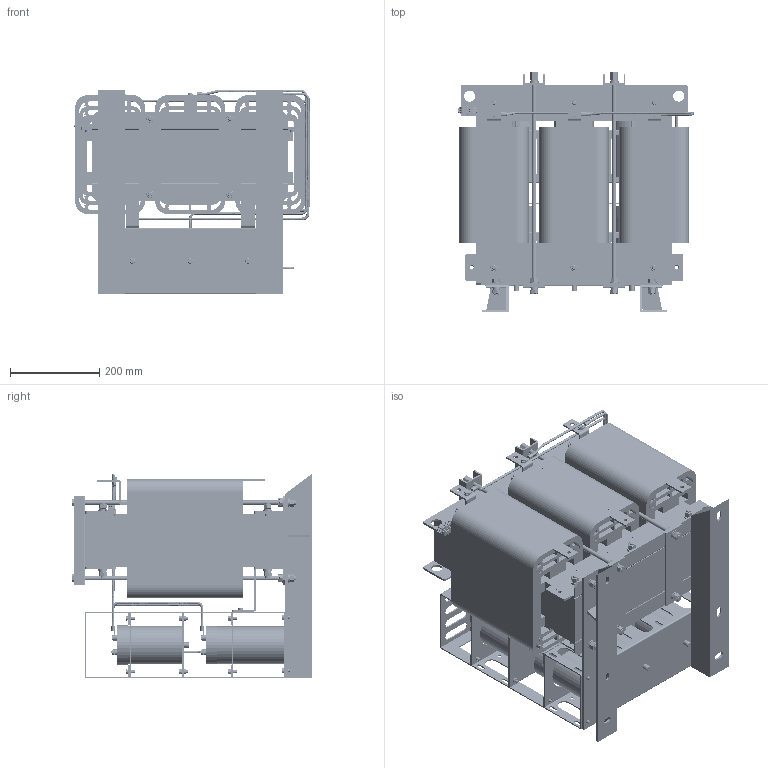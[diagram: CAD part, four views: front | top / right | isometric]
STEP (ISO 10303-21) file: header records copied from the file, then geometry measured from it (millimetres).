
FILE_DESCRIPTION(('STEP AP203'), '1');
FILE_NAME('蔓躅漤铋 耔眢耥 翳朦蝠 _ ISINOF-185_240-6', '', ('UNSPECIFIED'), ('UNSPECIFIED'), 'C3D Converter', 'C3D Toolkit', '');
FILE_SCHEMA(('CONFIG_CONTROL_DESIGN'));
Length unit declared in the file: millimetre
Products named in the file (53): ISINOF-185/240-6; UРНС№Мх 50x25x4; 愧X2\0437\X0\琵X2\0410\X0\ іЕМх; №么X2\04270426041C0445\X0\12x10x260; ї琵X2\041E\X0\做зЧУKV223-2P; А降еМх80-450-2; А降еМх琵X2\0436\X0\豹X2\0435\X0\80-98-2; ЖЅ豹X2\043504560415\X0\豹X2\0435\X0\12x25x260; ЖЅ豹X2\043504560415\X0\豹X2\0435\X0\20x50x260; ИэПаМъРѕ440-450-136; ПЯИ¦286A; ПВјРјю-490ЎБ80ЎБ40; ПВјРјю-490ЎБ80ЎБ40 јУЅУ琵X2\042804570427\X0\; 琵X2\04270405041504230422\X0\; 琵X2\04270405041504270443\X0\; 琵X2\04370418042D0426\X0\吭X2\04560415\X0\; ёЗЧУ; ЙПјРјю-560ЎБ80ЎБ6; ПЯИ朴жїй; С№豹X2\0435\X0\; ДЪДёЕЕ40x4; НвДёЕЕ40x4; 琵X2\04370418042D0458042C\X0\2; 吒X2\0425\X0\84-175; plain washers--product grade c gb_GB_FASTENER_WASHER_SMWC 10; spring lock washers--normal type gb_GB_FASTENER_WASHER_SW 10; hexagon nuts grade c gb_GB_FASTENER_NUT_SNC1 M10-N; hex head bolts-full thread grade c gb_GB_FASTENER_BOLT_HHBFTC M10X30-N; M10X190; M10X500; RNB22-6S; Б枯X2\0405042304150415\X0\; plain washers--product grade c gb_GB_FASTENER_WASHER_SMWC 6; hex head bolts-full thread grade c gb_GB_FASTENER_BOLT_HHBFTC M6X16-N; LРНЦ吭X2\04560415\X0\2; 吒X2\0425\X0\86-145; Cable_1-ХэПТІЁВЛІЁЖчSKS-SF-0240-6AЈЇ05-001; 琵X2\043704100412\X0\_1^Cable_1-ХэПТІЁВЛІЁЖчSKS-SF-0240-6AЈЇ05-001; Cable_2-ХэПТІЁВЛІЁЖчSKS-SF-0240-6AЈЇ05-001; 琵X2\043704100412\X0\_1^Cable_2-ХэПТІЁВЛІЁЖчSKS-SF-0240-6AЈЇ05-001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
Assembly tree (316 placements, depth 3):
  ISINOF-185/240-6
    UРНС№Мх 50x25x4  x2
    愧X2\0437\X0\琵X2\0410\X0\ іЕМх  x12
    №么X2\04270426041C0445\X0\12x10x260  x24
    ї琵X2\041E\X0\做зЧУKV223-2P
    А降еМх80-450-2  x6
    А降еМх琵X2\0436\X0\豹X2\0435\X0\80-98-2  x8
    ЖЅ豹X2\043504560415\X0\豹X2\0435\X0\12x25x260  x12
    ЖЅ豹X2\043504560415\X0\豹X2\0435\X0\20x50x260  x6
    ИэПаМъРѕ440-450-136
    ПЯИ¦286A  x3
    ПВјРјю-490ЎБ80ЎБ40
    ПВјРјю-490ЎБ80ЎБ40 јУЅУ琵X2\042804570427\X0\
    琵X2\04270405041504230422\X0\
    琵X2\04270405041504270443\X0\
    琵X2\04370418042D0426\X0\吭X2\04560415\X0\  x2
    ёЗЧУ
    ЙПјРјю-560ЎБ80ЎБ6  x2
    ПЯИ朴жїй  x4
    С№豹X2\0435\X0\  x2
    ДЪДёЕЕ40x4  x3
    НвДёЕЕ40x4  x3
    琵X2\04370418042D0458042C\X0\2  x2
    吒X2\0425\X0\84-175  x3
    plain washers--product grade c gb_GB_FASTENER_WASHER_SMWC 10  x48
    spring lock washers--normal type gb_GB_FASTENER_WASHER_SW 10  x24
    hexagon nuts grade c gb_GB_FASTENER_NUT_SNC1 M10-N  x32
    hex head bolts-full thread grade c gb_GB_FASTENER_BOLT_HHBFTC M10X30-N  x4
    M10X190  x6
    M10X500  x4
    RNB22-6S  x11
    Б枯X2\0405042304150415\X0\  x2
    plain washers--product grade c gb_GB_FASTENER_WASHER_SMWC 6  x31
    hex head bolts-full thread grade c gb_GB_FASTENER_BOLT_HHBFTC M6X16-N  x31
    LРНЦ吭X2\04560415\X0\2  x2
    吒X2\0425\X0\86-145  x3
    Cable_1-ХэПТІЁВЛІЁЖчSKS-SF-0240-6AЈЇ05-001
      琵X2\043704100412\X0\_1^Cable_1-ХэПТІЁВЛІЁЖчSKS-SF-0240-6AЈЇ05-001
    Cable_2-ХэПТІЁВЛІЁЖчSKS-SF-0240-6AЈЇ05-001
      琵X2\043704100412\X0\_1^Cable_2-ХэПТІЁВЛІЁЖчSKS-SF-0240-6AЈЇ05-001
    Cable_3-ХэПТІЁВЛІЁЖчSKS-SF-0240-6AЈЇ05-001
      琵X2\043704100412\X0\_1^Cable_3-ХэПТІЁВЛІЁЖчSKS-SF-0240-6AЈЇ05-001
    Cable_5-ХэПТІЁВЛІЁЖчSKS-SF-0240-6AЈЇ05-001
      琵X2\043704100412\X0\^Cable_5-ХэПТІЁВЛІЁЖчSKS-SF-0240-6AЈЇ05-001
    Cable_6-ХэПТІЁВЛІЁЖчSKS-SF-0240-6AЈЇ05-001
      琵X2\043704100412\X0\^Cable_6-ХэПТІЁВЛІЁЖчSKS-SF-0240-6AЈЇ05-001
    Cable_7-ХэПТІЁВЛІЁЖчSKS-SF-0240-6AЈЇ05-001
      琵X2\043704100412\X0\^Cable_7-ХэПТІЁВЛІЁЖчSKS-SF-0240-6AЈЇ05-001
    Cable_8-ХэПТІЁВЛІЁЖчSKS-SF-0240-6AЈЇ05
      琵X2\043704100412\X0\^Cable_8-ХэПТІЁВЛІЁЖчSKS-SF-0240-6AЈЇ05
    L1 L2 L3МщЦЅ
    L1ЎЇ L2Ўｮ L3ЎЇМщЦЅ
    琵X2\0428\X0\崤X2\043A\X0\
Bounding box: 529.67 x 539.6 x 460 mm (x, y, z)
Volume: 43566347.6 mm3; surface area: 7807421.7 mm2
Topology: 353 solids, 353 shells, 4100 faces, 9279 edges, 6064 vertices
Faces by surface type: plane 2453, cylinder 1149, cone 408, bspline 78, torus 12
Full cylindrical faces by diameter (mm): 3 x2, 3.8 x2, 4 x4, 6 x79, 6.4 x11, 6.6 x31, 7 x14, 8 x17, 8.376 x32, 9 x3, 10 x14, 10.9 x24, 11 x55, 12 x51, 12.5 x12, 14 x46, 16.1 x24, 20 x48, 25 x4, 27.3 x1, 28.5 x1, 30 x1, 42 x6, 50 x6, 84 x9, 86 x6, 90 x9
Entity records: 77833 total; most frequent: CARTESIAN_POINT 25533, DIRECTION 7114, ORIENTED_EDGE 6358, EDGE_CURVE 3179, AXIS2_PLACEMENT_3D 2513, VERTEX_POINT 2223, LINE 2088, VECTOR 2088
